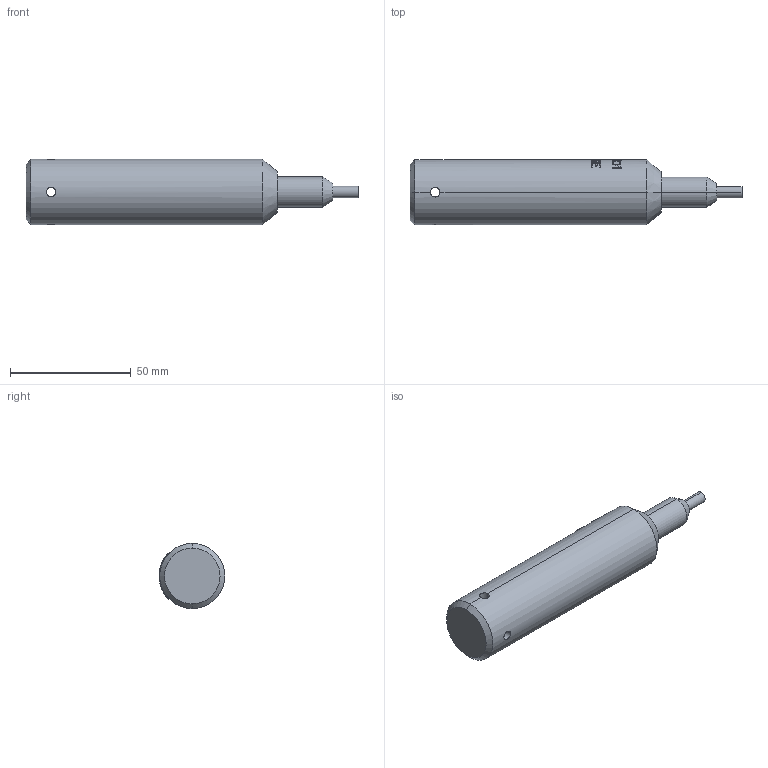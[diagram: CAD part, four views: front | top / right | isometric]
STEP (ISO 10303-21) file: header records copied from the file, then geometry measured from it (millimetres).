
FILE_DESCRIPTION((''),'2;1');
FILE_NAME('PRT0078','2025-12-30T14:15:34',('28740194'),(''),'CREO PARAMETRIC BY PTC INC, 2024063','CREO PARAMETRIC BY PTC INC, 2024063','');
FILE_SCHEMA(('CONFIG_CONTROL_DESIGN'));
Length unit declared in the file: millimetre
Products named in the file (1): PRT0078
Bounding box: 137.39 x 27.22 x 27 mm (x, y, z)
Surface area: 11104 mm2 (no closed solid volume)
Topology: 0 solids, 4 shells, 330 faces, 925 edges, 611 vertices
Faces by surface type: bspline 289, cylinder 31, cone 6, plane 4
Entity records: 14499 total; most frequent: CARTESIAN_POINT 8049, ORIENTED_EDGE 1838, EDGE_CURVE 931, B_SPLINE_CURVE_WITH_KNOTS 693, VERTEX_POINT 618, DIRECTION 450, EDGE_LOOP 348, FACE_OUTER_BOUND 329
